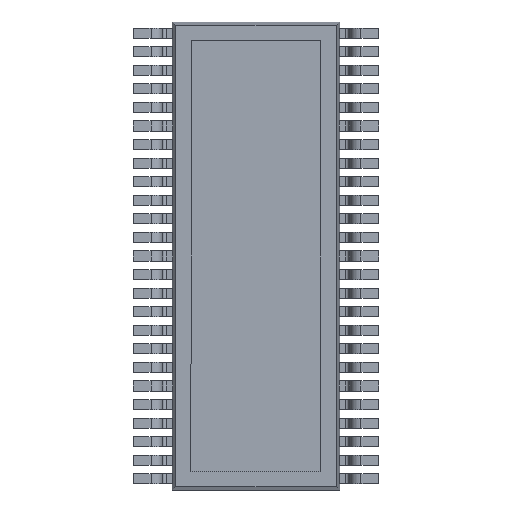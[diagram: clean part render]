
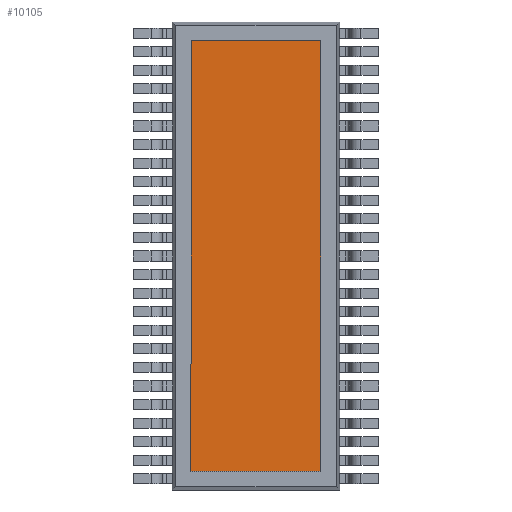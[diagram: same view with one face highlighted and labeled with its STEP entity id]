
A CAD part, front view. The second image highlights one B-rep face of the part: STEP entity #10105.
In plain terms, the highlighted planar face has unit normal (0, -1, 0).
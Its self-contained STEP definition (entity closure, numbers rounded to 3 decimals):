
#1744 = FACE_OUTER_BOUND ( 'NONE', #12912, .T. ) ;
#5120 = VECTOR ( 'NONE', #26325, 1000. ) ;
#5128 = VECTOR ( 'NONE', #26322, 1000. ) ;
#5132 = LINE ( 'NONE', #26323, #5120 ) ;
#5144 = VECTOR ( 'NONE', #26318, 1000. ) ;
#5156 = LINE ( 'NONE', #26315, #5128 ) ;
#5164 = LINE ( 'NONE', #26313, #5144 ) ;
#5168 = VECTOR ( 'NONE', #26312, 1000. ) ;
#5183 = LINE ( 'NONE', #26305, #5168 ) ;
#10105 = ADVANCED_FACE ( 'NONE', ( #1744 ), #25535, .F. ) ;
#12912 = EDGE_LOOP ( 'NONE', ( #22477, #22476, #22475, #22474 ) ) ;
#13818 = EDGE_CURVE ( 'NONE', #22468, #22470, #5183, .T. ) ;
#13821 = EDGE_CURVE ( 'NONE', #22470, #22465, #5164, .T. ) ;
#13823 = EDGE_CURVE ( 'NONE', #22465, #22462, #5156, .T. ) ;
#13824 = EDGE_CURVE ( 'NONE', #22462, #22468, #5132, .T. ) ;
#16827 = AXIS2_PLACEMENT_3D ( 'NONE', #25543, #25544, #25545 ) ;
#22462 = VERTEX_POINT ( 'NONE', #29346 ) ;
#22465 = VERTEX_POINT ( 'NONE', #29349 ) ;
#22468 = VERTEX_POINT ( 'NONE', #29352 ) ;
#22470 = VERTEX_POINT ( 'NONE', #29354 ) ;
#22474 = ORIENTED_EDGE ( 'NONE', *, *, #13824, .T. ) ;
#22475 = ORIENTED_EDGE ( 'NONE', *, *, #13823, .T. ) ;
#22476 = ORIENTED_EDGE ( 'NONE', *, *, #13821, .T. ) ;
#22477 = ORIENTED_EDGE ( 'NONE', *, *, #13818, .T. ) ;
#25535 = PLANE ( 'NONE',  #16827 ) ;
#25543 = CARTESIAN_POINT ( 'NONE',  ( 0., 0., 0. ) ) ;
#25544 = DIRECTION ( 'NONE',  ( 0., 1., 0. ) ) ;
#25545 = DIRECTION ( 'NONE',  ( 0., 0., 1. ) ) ;
#26305 = CARTESIAN_POINT ( 'NONE',  ( 1.75, 0., 5.8 ) ) ;
#26312 = DIRECTION ( 'NONE',  ( 0., 0., 1. ) ) ;
#26313 = CARTESIAN_POINT ( 'NONE',  ( -1.75, 0., 5.8 ) ) ;
#26315 = CARTESIAN_POINT ( 'NONE',  ( -1.75, 0., 5.8 ) ) ;
#26318 = DIRECTION ( 'NONE',  ( -1., 0., 0. ) ) ;
#26322 = DIRECTION ( 'NONE',  ( 0., 0., -1. ) ) ;
#26323 = CARTESIAN_POINT ( 'NONE',  ( -1.75, 0., -5.8 ) ) ;
#26325 = DIRECTION ( 'NONE',  ( 1., 0., 0. ) ) ;
#29346 = CARTESIAN_POINT ( 'NONE',  ( -1.75, 0., -5.8 ) ) ;
#29349 = CARTESIAN_POINT ( 'NONE',  ( -1.75, 0., 5.8 ) ) ;
#29352 = CARTESIAN_POINT ( 'NONE',  ( 1.75, 0., -5.8 ) ) ;
#29354 = CARTESIAN_POINT ( 'NONE',  ( 1.75, 0., 5.8 ) ) ;
